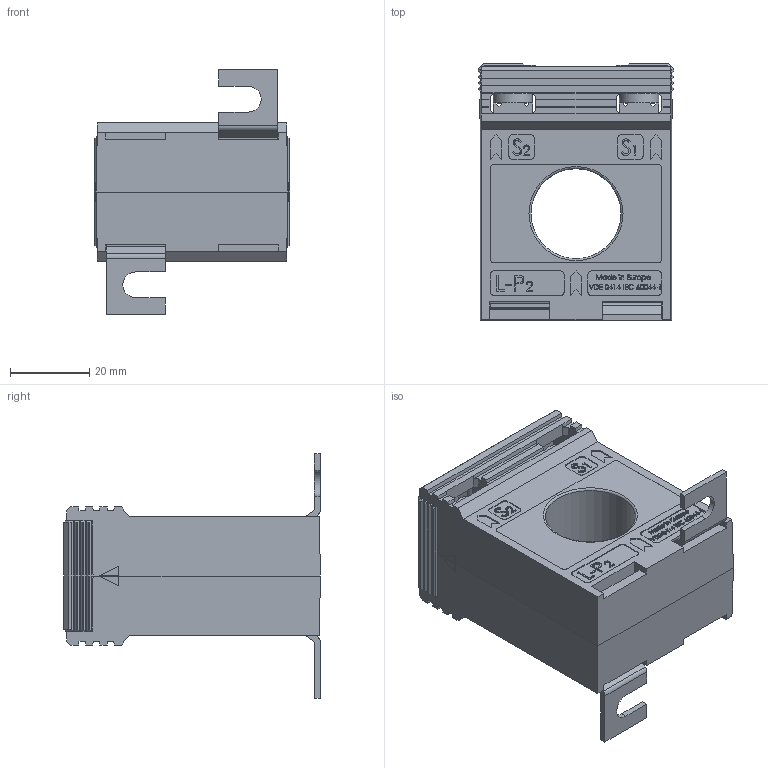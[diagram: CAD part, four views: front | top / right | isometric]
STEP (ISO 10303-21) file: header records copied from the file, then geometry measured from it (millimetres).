
FILE_DESCRIPTION(/* description */ (''),/* implementation_level */ '2;1');
FILE_NAME(/* name */ 'ASR21.3.stp',/* time_stamp */ '2024-03-05T09:45:31+01:00',/* author */ ('JDI'),/* organization */ (''),/* preprocessor_version */ 'ST-DEVELOPER v19.2',/* originating_system */ 'Autodesk Inventor 2023',/* authorisation */ '');
FILE_SCHEMA (('AUTOMOTIVE_DESIGN { 1 0 10303 214 3 1 1 }'));
Products named in the file (1): ASR21.3
Bounding box: 49.5 x 65 x 62 mm (x, y, z)
Volume: 75876.9 mm3; surface area: 24496.9 mm2
Topology: 1 solids, 1 shells, 1559 faces, 4142 edges, 2673 vertices
Faces by surface type: plane 1144, bspline 312, cylinder 73, cone 16, sphere 8, torus 6
Full cylindrical faces by diameter (mm): 2.95 x2, 10 x4, 22.8 x1
Entity records: 66068 total; most frequent: CARTESIAN_POINT 27719, ORIENTED_EDGE 8284, DIRECTION 6337, EDGE_CURVE 4142, LINE 3171, VECTOR 3171, VERTEX_POINT 2673, EDGE_LOOP 1705
